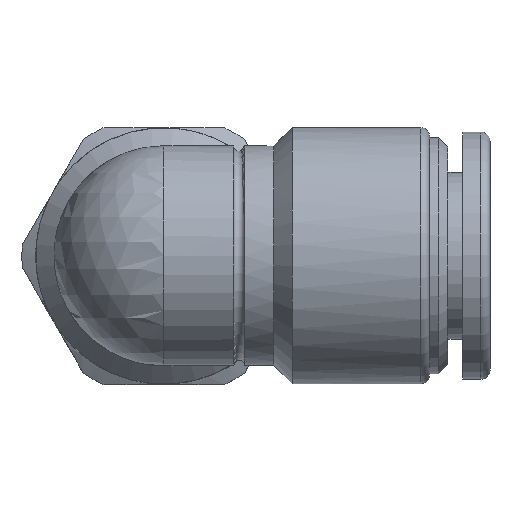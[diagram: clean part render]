
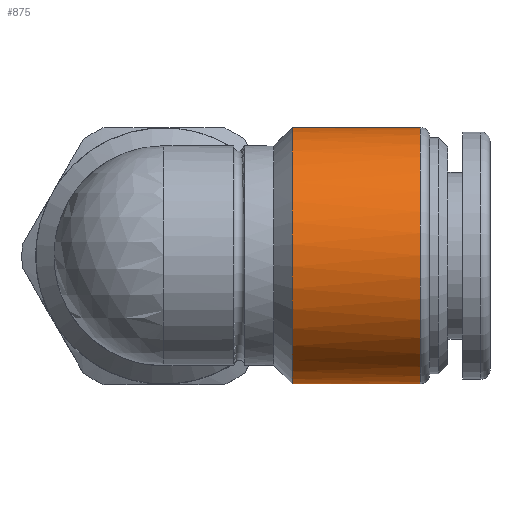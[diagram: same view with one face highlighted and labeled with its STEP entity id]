
A CAD part, top view. The second image highlights one B-rep face of the part: STEP entity #875.
In plain terms, the highlighted cylindrical face has radius 7 mm (diameter 14 mm), a full revolution.
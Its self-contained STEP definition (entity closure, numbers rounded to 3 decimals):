
#48=LINE($,#1602,#76);
#53=LINE($,#1622,#81);
#76=VECTOR($,#1227,2.);
#81=VECTOR($,#1238,2.);
#98=CYLINDRICAL_SURFACE($,#994,7.);
#166=FACE_BOUND($,#295,.T.);
#220=FACE_OUTER_BOUND($,#294,.T.);
#294=EDGE_LOOP($,(#779));
#295=EDGE_LOOP($,(#780,#781,#782,#783,#784));
#354=CIRCLE($,#991,7.);
#355=CIRCLE($,#993,7.);
#356=CIRCLE($,#995,7.);
#357=CIRCLE($,#996,7.);
#432=VERTEX_POINT($,#1599);
#433=VERTEX_POINT($,#1601);
#436=VERTEX_POINT($,#1611);
#438=VERTEX_POINT($,#1617);
#439=VERTEX_POINT($,#1621);
#440=VERTEX_POINT($,#1632);
#544=EDGE_CURVE($,#433,#432,#48,.T.);
#552=EDGE_CURVE($,#439,#438,#53,.T.);
#556=EDGE_CURVE($,#436,#439,#354,.T.);
#557=EDGE_CURVE($,#432,#436,#355,.T.);
#558=EDGE_CURVE($,#440,#440,#356,.T.);
#559=EDGE_CURVE($,#433,#438,#357,.T.);
#779=ORIENTED_EDGE($,*,*,#558,.F.);
#780=ORIENTED_EDGE($,*,*,#544,.T.);
#781=ORIENTED_EDGE($,*,*,#557,.T.);
#782=ORIENTED_EDGE($,*,*,#556,.T.);
#783=ORIENTED_EDGE($,*,*,#552,.T.);
#784=ORIENTED_EDGE($,*,*,#559,.F.);
#875=ADVANCED_FACE($,(#220,#166),#98,.T.);
#991=AXIS2_PLACEMENT_3D($,#1628,#1248,#1249);
#993=AXIS2_PLACEMENT_3D($,#1630,#1252,#1253);
#994=AXIS2_PLACEMENT_3D($,#1631,#1254,#1255);
#995=AXIS2_PLACEMENT_3D($,#1633,#1256,#1257);
#996=AXIS2_PLACEMENT_3D($,#1634,#1258,#1259);
#1227=DIRECTION($,(1.,0.,0.));
#1238=DIRECTION($,(-1.,0.,0.));
#1248=DIRECTION('center_axis',(1.,0.,0.));
#1249=DIRECTION('ref_axis',(0.,0.,1.));
#1252=DIRECTION('center_axis',(1.,0.,0.));
#1253=DIRECTION('ref_axis',(0.,0.,1.));
#1254=DIRECTION('center_axis',(1.,0.,0.));
#1255=DIRECTION('ref_axis',(0.,0.,1.));
#1256=DIRECTION('center_axis',(1.,0.,0.));
#1257=DIRECTION('ref_axis',(0.,0.,1.));
#1258=DIRECTION('center_axis',(-1.,0.,0.));
#1259=DIRECTION('ref_axis',(0.,0.,1.));
#1599=CARTESIAN_POINT('',(9.,-0.75,-6.96));
#1601=CARTESIAN_POINT('',(7.,-0.75,-6.96));
#1602=CARTESIAN_POINT($,(6.,-0.75,-6.96));
#1611=CARTESIAN_POINT('',(9.,0.,-7.));
#1617=CARTESIAN_POINT('',(7.,0.75,-6.96));
#1621=CARTESIAN_POINT('',(9.,0.75,-6.96));
#1622=CARTESIAN_POINT($,(6.,0.75,-6.96));
#1628=CARTESIAN_POINT('Origin',(9.,0.,0.));
#1630=CARTESIAN_POINT('Origin',(9.,0.,0.));
#1631=CARTESIAN_POINT('Origin',(6.,0.,0.));
#1632=CARTESIAN_POINT('',(14.,0.,-7.));
#1633=CARTESIAN_POINT('Origin',(14.,0.,0.));
#1634=CARTESIAN_POINT('Origin',(7.,0.,0.));
